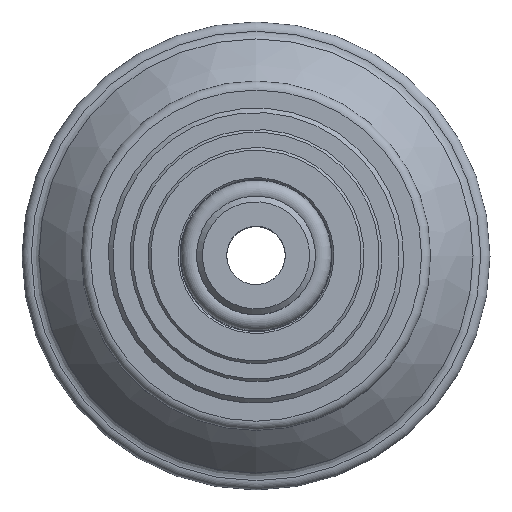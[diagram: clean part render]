
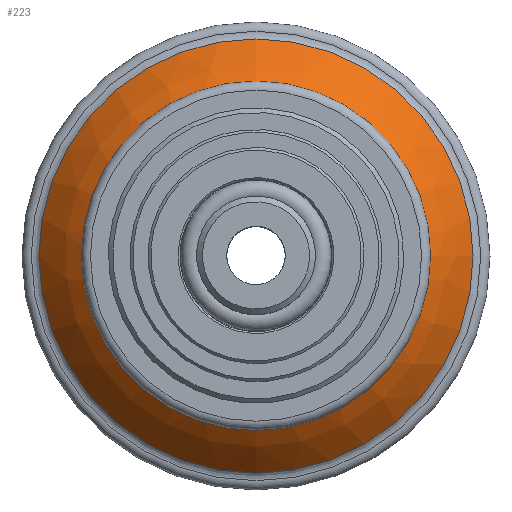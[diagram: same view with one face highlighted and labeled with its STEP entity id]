
A CAD part, top view. The second image highlights one B-rep face of the part: STEP entity #223.
In plain terms, the highlighted spherical face has radius 29.577 mm.
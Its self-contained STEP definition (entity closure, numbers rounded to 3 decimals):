
#223 = ADVANCED_FACE( '', ( #487, #488 ), #489, .T. );
#487 = FACE_OUTER_BOUND( '', #863, .T. );
#488 = FACE_OUTER_BOUND( '', #864, .T. );
#489 = SPHERICAL_SURFACE( '', #865, 29.577 );
#863 = EDGE_LOOP( '', ( #1244 ) );
#864 = EDGE_LOOP( '', ( #1245 ) );
#865 = AXIS2_PLACEMENT_3D( '', #1246, #1247, #1248 );
#1244 = ORIENTED_EDGE( '', *, *, #1448, .T. );
#1245 = ORIENTED_EDGE( '', *, *, #1493, .F. );
#1246 = CARTESIAN_POINT( '', ( 0., 0., -28.976 ) );
#1247 = DIRECTION( '', ( 0., 0., 1. ) );
#1248 = DIRECTION( '', ( 1., 0., 0. ) );
#1448 = EDGE_CURVE( '', #1623, #1623, #1624, .T. );
#1493 = EDGE_CURVE( '', #1691, #1691, #1692, .T. );
#1623 = VERTEX_POINT( '', #1834 );
#1624 = CIRCLE( '', #1835, 24.116 );
#1691 = VERTEX_POINT( '', #1902 );
#1692 = CIRCLE( '', #1903, 17.831 );
#1834 = CARTESIAN_POINT( '', ( 24.116, 0., -11.853 ) );
#1835 = AXIS2_PLACEMENT_3D( '', #2058, #2059, #2060 );
#1902 = CARTESIAN_POINT( '', ( 17.831, 0., -5.379 ) );
#1903 = AXIS2_PLACEMENT_3D( '', #2127, #2128, #2129 );
#2058 = CARTESIAN_POINT( '', ( 0., 0., -11.853 ) );
#2059 = DIRECTION( '', ( 0., 0., 1. ) );
#2060 = DIRECTION( '', ( 1., 0., 0. ) );
#2127 = CARTESIAN_POINT( '', ( 0., 0., -5.379 ) );
#2128 = DIRECTION( '', ( 0., 0., 1. ) );
#2129 = DIRECTION( '', ( 1., 0., 0. ) );
